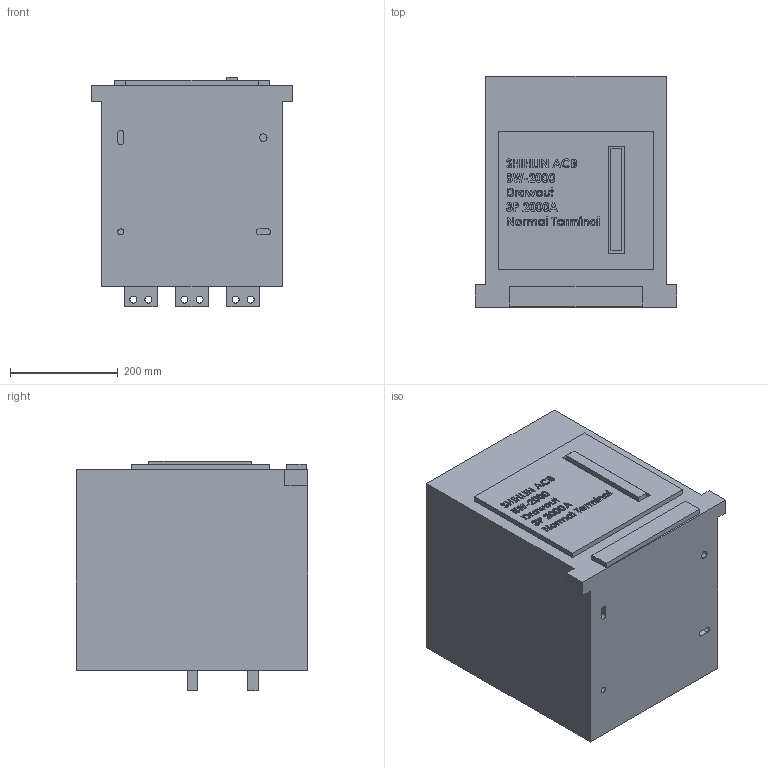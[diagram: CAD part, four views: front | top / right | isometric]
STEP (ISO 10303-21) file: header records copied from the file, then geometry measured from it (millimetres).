
FILE_DESCRIPTION (( 'STEP AP203' ), '1' );
FILE_NAME ('BW-2000-Drawout-3P-2000A-Normal Terminal.STEP', '2016-11-03T01:06:05', ( '' ), ( '' ), 'SwSTEP 2.0', 'SolidWorks 2015', '' );
FILE_SCHEMA (( 'CONFIG_CONTROL_DESIGN' ));
Products named in the file (1): BW-2000-Drawout-3P-2000A-Normal Terminal
Bounding box: 375 x 430 x 426 mm (x, y, z)
Volume: 54876253.4 mm3; surface area: 966597.2 mm2
Topology: 1 solids, 1 shells, 671 faces, 1767 edges, 1178 vertices
Faces by surface type: plane 406, bspline 232, cylinder 33
Entity records: 33444 total; most frequent: CARTESIAN_POINT 18233, ORIENTED_EDGE 3534, DIRECTION 2249, EDGE_CURVE 1767, LINE 1237, VECTOR 1237, VERTEX_POINT 1178, EDGE_LOOP 775
